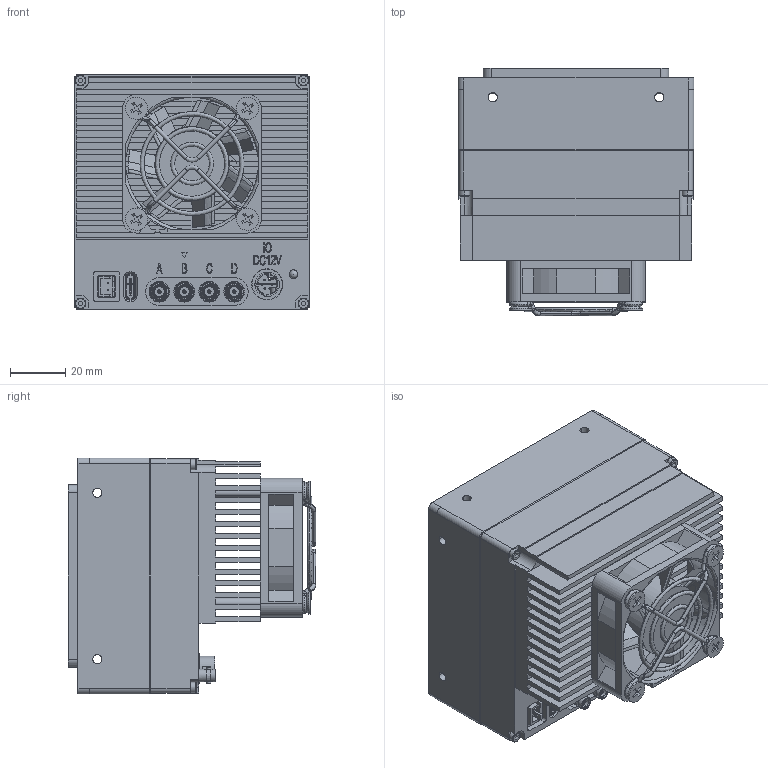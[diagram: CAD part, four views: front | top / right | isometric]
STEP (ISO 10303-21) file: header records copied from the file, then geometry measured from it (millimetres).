
FILE_DESCRIPTION (( 'STEP AP203' ), '1' );
FILE_NAME ('TS65MCXP-71M-A02-V2.0.0-三维模型.STEP', '2022-10-18T01:11:01', ( '微软用户' ), ( '微软中国' ), 'SwSTEP 2.0', 'SolidWorks 2017', '' );
FILE_SCHEMA (( 'CONFIG_CONTROL_DESIGN' ));
Length unit declared in the file: millimetre
Products named in the file (1): TS65MCXP-71M-A02-V2.0.0-三维模型
Bounding box: 85 x 89.17 x 85 mm (x, y, z)
Surface area: 88127.2 mm2 (no closed solid volume)
Topology: 0 solids, 75 shells, 910 faces, 3496 edges, 2626 vertices
Faces by surface type: plane 432, cylinder 281, bspline 112, cone 62, torus 16, sphere 7
Entity records: 46469 total; most frequent: CARTESIAN_POINT 19331, ORIENTED_EDGE 5353, DIRECTION 4924, EDGE_CURVE 3477, VERTEX_POINT 2615, LINE 1898, VECTOR 1898, AXIS2_PLACEMENT_3D 1513
